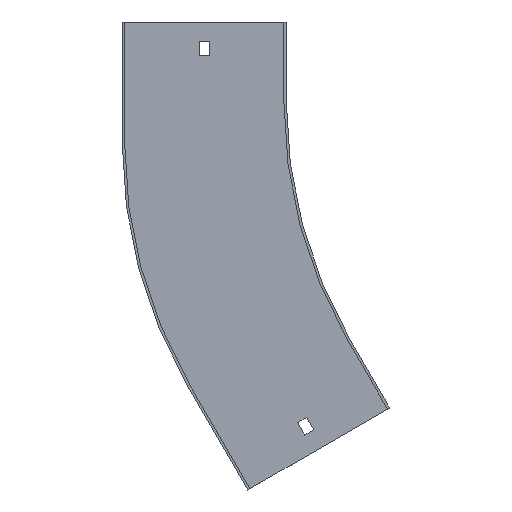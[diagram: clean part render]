
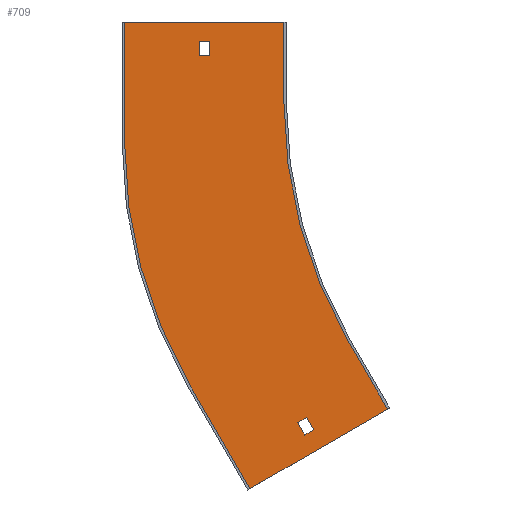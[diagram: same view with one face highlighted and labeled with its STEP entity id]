
A CAD part, front view. The second image highlights one B-rep face of the part: STEP entity #709.
In plain terms, the highlighted planar face has unit normal (0, -1, 0).
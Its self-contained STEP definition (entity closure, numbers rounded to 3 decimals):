
#2 = LINE ( 'NONE', #526, #413 ) ;
#6 = DIRECTION ( 'NONE',  ( 0., 0., -1. ) ) ;
#7 = VECTOR ( 'NONE', #322, 1000. ) ;
#20 = CARTESIAN_POINT ( 'NONE',  ( -321.41, -1.5, -243.301 ) ) ;
#30 = ORIENTED_EDGE ( 'NONE', *, *, #190, .F. ) ;
#47 = CIRCLE ( 'NONE', #296, 300. ) ;
#56 = EDGE_CURVE ( 'NONE', #746, #254, #544, .T. ) ;
#59 = DIRECTION ( 'NONE',  ( 0., 0., -1. ) ) ;
#60 = VECTOR ( 'NONE', #707, 1000. ) ;
#62 = DIRECTION ( 'NONE',  ( -0.5, 0., 0.866 ) ) ;
#68 = CARTESIAN_POINT ( 'NONE',  ( -291.423, -1.5, -201.74 ) ) ;
#76 = DIRECTION ( 'NONE',  ( 0., -1., 0. ) ) ;
#78 = ORIENTED_EDGE ( 'NONE', *, *, #209, .F. ) ;
#80 = EDGE_CURVE ( 'NONE', #755, #723, #167, .T. ) ;
#83 = AXIS2_PLACEMENT_3D ( 'NONE', #422, #76, #6 ) ;
#85 = LINE ( 'NONE', #161, #298 ) ;
#86 = EDGE_LOOP ( 'NONE', ( #628, #95, #313, #486, #197, #403, #436, #78 ) ) ;
#93 = DIRECTION ( 'NONE',  ( 0., -1., 0. ) ) ;
#95 = ORIENTED_EDGE ( 'NONE', *, *, #212, .F. ) ;
#105 = DIRECTION ( 'NONE',  ( -0.866, 0., -0.5 ) ) ;
#106 = LINE ( 'NONE', #758, #60 ) ;
#119 = CARTESIAN_POINT ( 'NONE',  ( -353.25, -1.5, 0. ) ) ;
#127 = VECTOR ( 'NONE', #62, 1000. ) ;
#148 = CARTESIAN_POINT ( 'NONE',  ( 19., -1.5, -32.909 ) ) ;
#157 = DIRECTION ( 'NONE',  ( 1., 0., 0. ) ) ;
#161 = CARTESIAN_POINT ( 'NONE',  ( 0., -1.5, 29. ) ) ;
#167 = LINE ( 'NONE', #701, #127 ) ;
#171 = EDGE_CURVE ( 'NONE', #306, #711, #47, .T. ) ;
#173 = CARTESIAN_POINT ( 'NONE',  ( -234.808, -1.5, -193.301 ) ) ;
#189 = VECTOR ( 'NONE', #805, 1000. ) ;
#190 = EDGE_CURVE ( 'NONE', #687, #755, #789, .T. ) ;
#191 = CARTESIAN_POINT ( 'NONE',  ( 14.5, -1.5, -25.115 ) ) ;
#197 = ORIENTED_EDGE ( 'NONE', *, *, #431, .F. ) ;
#203 = EDGE_CURVE ( 'NONE', #673, #559, #273, .T. ) ;
#207 = CARTESIAN_POINT ( 'NONE',  ( -321.41, -1.5, -243.301 ) ) ;
#209 = EDGE_CURVE ( 'NONE', #254, #476, #262, .T. ) ;
#210 = FACE_BOUND ( 'NONE', #618, .T. ) ;
#212 = EDGE_CURVE ( 'NONE', #711, #746, #2, .T. ) ;
#233 = EDGE_LOOP ( 'NONE', ( #302, #825, #417, #688 ) ) ;
#254 = VERTEX_POINT ( 'NONE', #781 ) ;
#262 = LINE ( 'NONE', #519, #316 ) ;
#271 = EDGE_CURVE ( 'NONE', #564, #306, #604, .T. ) ;
#273 = LINE ( 'NONE', #675, #446 ) ;
#278 = EDGE_CURVE ( 'NONE', #602, #541, #85, .T. ) ;
#284 = CARTESIAN_POINT ( 'NONE',  ( 0., -1.5, 0. ) ) ;
#293 = CARTESIAN_POINT ( 'NONE',  ( -353.25, -1.5, 38. ) ) ;
#296 = AXIS2_PLACEMENT_3D ( 'NONE', #661, #335, #863 ) ;
#298 = VECTOR ( 'NONE', #474, 1000. ) ;
#300 = FACE_BOUND ( 'NONE', #233, .T. ) ;
#302 = ORIENTED_EDGE ( 'NONE', *, *, #203, .T. ) ;
#306 = VERTEX_POINT ( 'NONE', #738 ) ;
#313 = ORIENTED_EDGE ( 'NONE', *, *, #171, .F. ) ;
#314 = EDGE_CURVE ( 'NONE', #476, #804, #467, .T. ) ;
#316 = VECTOR ( 'NONE', #59, 1000. ) ;
#318 = LINE ( 'NONE', #119, #7 ) ;
#322 = DIRECTION ( 'NONE',  ( 0., 0., 1. ) ) ;
#335 = DIRECTION ( 'NONE',  ( 0., 1., 0. ) ) ;
#348 = CARTESIAN_POINT ( 'NONE',  ( -400., -1.5, -26.795 ) ) ;
#354 = DIRECTION ( 'NONE',  ( -0.5, 0., 0.866 ) ) ;
#357 = ORIENTED_EDGE ( 'NONE', *, *, #80, .F. ) ;
#358 = CARTESIAN_POINT ( 'NONE',  ( -281.294, -1.5, -206.284 ) ) ;
#387 = AXIS2_PLACEMENT_3D ( 'NONE', #284, #93, #627 ) ;
#395 = DIRECTION ( 'NONE',  ( 0., 0., 1. ) ) ;
#403 = ORIENTED_EDGE ( 'NONE', *, *, #779, .F. ) ;
#412 = VERTEX_POINT ( 'NONE', #173 ) ;
#413 = VECTOR ( 'NONE', #395, 1000. ) ;
#417 = ORIENTED_EDGE ( 'NONE', *, *, #278, .T. ) ;
#422 = CARTESIAN_POINT ( 'NONE',  ( 0., -1.5, 0. ) ) ;
#431 = EDGE_CURVE ( 'NONE', #412, #564, #636, .T. ) ;
#436 = ORIENTED_EDGE ( 'NONE', *, *, #314, .F. ) ;
#446 = VECTOR ( 'NONE', #724, 1000. ) ;
#449 = VECTOR ( 'NONE', #452, 1000. ) ;
#452 = DIRECTION ( 'NONE',  ( 0., 0., -1. ) ) ;
#454 = EDGE_CURVE ( 'NONE', #611, #687, #106, .T. ) ;
#456 = CARTESIAN_POINT ( 'NONE',  ( -353.25, -1.5, 29. ) ) ;
#463 = DIRECTION ( 'NONE',  ( 0.866, 0., 0.5 ) ) ;
#467 = CIRCLE ( 'NONE', #387, 300. ) ;
#474 = DIRECTION ( 'NONE',  ( -1., 0., 0. ) ) ;
#475 = FACE_OUTER_BOUND ( 'NONE', #86, .T. ) ;
#476 = VERTEX_POINT ( 'NONE', #839 ) ;
#486 = ORIENTED_EDGE ( 'NONE', *, *, #271, .F. ) ;
#494 = ORIENTED_EDGE ( 'NONE', *, *, #823, .F. ) ;
#500 = CARTESIAN_POINT ( 'NONE',  ( -346.75, -1.5, 0. ) ) ;
#502 = EDGE_CURVE ( 'NONE', #541, #673, #318, .T. ) ;
#519 = CARTESIAN_POINT ( 'NONE',  ( -300., -1.5, 50. ) ) ;
#524 = VECTOR ( 'NONE', #566, 1000. ) ;
#526 = CARTESIAN_POINT ( 'NONE',  ( -400., -1.5, -26.795 ) ) ;
#540 = CARTESIAN_POINT ( 'NONE',  ( -259.808, -1.5, -150. ) ) ;
#541 = VERTEX_POINT ( 'NONE', #456 ) ;
#544 = LINE ( 'NONE', #745, #639 ) ;
#559 = VERTEX_POINT ( 'NONE', #860 ) ;
#564 = VERTEX_POINT ( 'NONE', #207 ) ;
#566 = DIRECTION ( 'NONE',  ( -0.866, 0., -0.5 ) ) ;
#572 = CARTESIAN_POINT ( 'NONE',  ( -233.509, -1.5, -192.551 ) ) ;
#574 = CARTESIAN_POINT ( 'NONE',  ( -259.808, -1.5, -150. ) ) ;
#602 = VERTEX_POINT ( 'NONE', #734 ) ;
#604 = LINE ( 'NONE', #20, #695 ) ;
#611 = VERTEX_POINT ( 'NONE', #68 ) ;
#617 = CARTESIAN_POINT ( 'NONE',  ( -400., -1.5, 50. ) ) ;
#618 = EDGE_LOOP ( 'NONE', ( #357, #30, #633, #494 ) ) ;
#627 = DIRECTION ( 'NONE',  ( 0., 0., -1. ) ) ;
#628 = ORIENTED_EDGE ( 'NONE', *, *, #56, .F. ) ;
#633 = ORIENTED_EDGE ( 'NONE', *, *, #454, .F. ) ;
#635 = LINE ( 'NONE', #500, #449 ) ;
#636 = LINE ( 'NONE', #572, #524 ) ;
#639 = VECTOR ( 'NONE', #157, 1000. ) ;
#661 = CARTESIAN_POINT ( 'NONE',  ( -100., -1.5, -26.795 ) ) ;
#670 = PLANE ( 'NONE',  #83 ) ;
#673 = VERTEX_POINT ( 'NONE', #293 ) ;
#675 = CARTESIAN_POINT ( 'NONE',  ( 0., -1.5, 38. ) ) ;
#677 = VECTOR ( 'NONE', #463, 1000. ) ;
#687 = VERTEX_POINT ( 'NONE', #736 ) ;
#688 = ORIENTED_EDGE ( 'NONE', *, *, #502, .T. ) ;
#695 = VECTOR ( 'NONE', #354, 1000. ) ;
#701 = CARTESIAN_POINT ( 'NONE',  ( -300.294, -1.5, -173.375 ) ) ;
#707 = DIRECTION ( 'NONE',  ( 0.5, 0., -0.866 ) ) ;
#709 = ADVANCED_FACE ( 'NONE', ( #210, #475, #300 ), #670, .T. ) ;
#711 = VERTEX_POINT ( 'NONE', #348 ) ;
#723 = VERTEX_POINT ( 'NONE', #741 ) ;
#724 = DIRECTION ( 'NONE',  ( 1., 0., 0. ) ) ;
#734 = CARTESIAN_POINT ( 'NONE',  ( -346.75, -1.5, 29. ) ) ;
#736 = CARTESIAN_POINT ( 'NONE',  ( -286.923, -1.5, -209.534 ) ) ;
#738 = CARTESIAN_POINT ( 'NONE',  ( -359.808, -1.5, -176.795 ) ) ;
#741 = CARTESIAN_POINT ( 'NONE',  ( -285.794, -1.5, -198.49 ) ) ;
#745 = CARTESIAN_POINT ( 'NONE',  ( -401.5, -1.5, 50. ) ) ;
#746 = VERTEX_POINT ( 'NONE', #617 ) ;
#755 = VERTEX_POINT ( 'NONE', #358 ) ;
#758 = CARTESIAN_POINT ( 'NONE',  ( -305.923, -1.5, -176.625 ) ) ;
#770 = LINE ( 'NONE', #191, #777 ) ;
#777 = VECTOR ( 'NONE', #105, 1000. ) ;
#779 = EDGE_CURVE ( 'NONE', #804, #412, #797, .T. ) ;
#781 = CARTESIAN_POINT ( 'NONE',  ( -300., -1.5, 50. ) ) ;
#789 = LINE ( 'NONE', #148, #677 ) ;
#797 = LINE ( 'NONE', #540, #189 ) ;
#800 = EDGE_CURVE ( 'NONE', #559, #602, #635, .T. ) ;
#804 = VERTEX_POINT ( 'NONE', #574 ) ;
#805 = DIRECTION ( 'NONE',  ( 0.5, 0., -0.866 ) ) ;
#823 = EDGE_CURVE ( 'NONE', #723, #611, #770, .T. ) ;
#825 = ORIENTED_EDGE ( 'NONE', *, *, #800, .T. ) ;
#839 = CARTESIAN_POINT ( 'NONE',  ( -300., -1.5, 0. ) ) ;
#860 = CARTESIAN_POINT ( 'NONE',  ( -346.75, -1.5, 38. ) ) ;
#863 = DIRECTION ( 'NONE',  ( 0., 0., -1. ) ) ;
